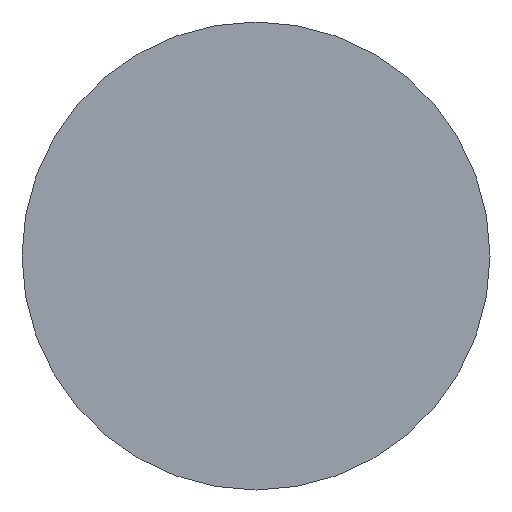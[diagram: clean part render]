
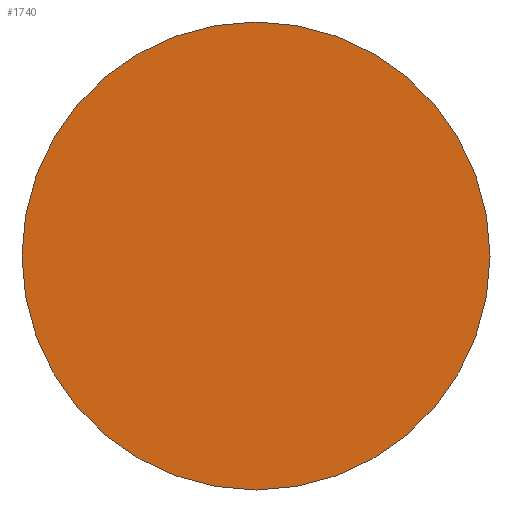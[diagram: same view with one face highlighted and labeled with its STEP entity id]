
A CAD part, front view. The second image highlights one B-rep face of the part: STEP entity #1740.
In plain terms, the highlighted planar face has unit normal (0, -1, 0).
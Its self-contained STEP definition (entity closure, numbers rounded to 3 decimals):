
#429 = DIRECTION ( 'NONE',  ( 0., 0., 1. ) ) ;
#1152 = DIRECTION ( 'NONE',  ( 0., 1., 0. ) ) ;
#1204 = VERTEX_POINT ( 'NONE', #3627 ) ;
#1438 = DIRECTION ( 'NONE',  ( 0., 1., 0. ) ) ;
#1740 = ADVANCED_FACE ( 'NONE', ( #9361 ), #3541, .F. ) ;
#3379 = EDGE_CURVE ( 'NONE', #5372, #1204, #6129, .T. ) ;
#3541 = PLANE ( 'NONE',  #4223 ) ;
#3627 = CARTESIAN_POINT ( 'NONE',  ( 673.365, 866.919, 1278.604 ) ) ;
#3935 = ORIENTED_EDGE ( 'NONE', *, *, #3379, .F. ) ;
#4223 = AXIS2_PLACEMENT_3D ( 'NONE', #6848, #1152, #6900 ) ;
#4679 = DIRECTION ( 'NONE',  ( 0., 0., 1. ) ) ;
#5294 = AXIS2_PLACEMENT_3D ( 'NONE', #10394, #6217, #429 ) ;
#5372 = VERTEX_POINT ( 'NONE', #9587 ) ;
#6129 = CIRCLE ( 'NONE', #10218, 30. ) ;
#6217 = DIRECTION ( 'NONE',  ( 0., 1., 0. ) ) ;
#6332 = CARTESIAN_POINT ( 'NONE',  ( 673.365, 866.919, 1308.604 ) ) ;
#6848 = CARTESIAN_POINT ( 'NONE',  ( 673.365, 866.919, 1308.604 ) ) ;
#6900 = DIRECTION ( 'NONE',  ( 0., 0., 1. ) ) ;
#7174 = CIRCLE ( 'NONE', #5294, 30. ) ;
#8062 = EDGE_CURVE ( 'NONE', #1204, #5372, #7174, .T. ) ;
#8578 = EDGE_LOOP ( 'NONE', ( #8809, #3935 ) ) ;
#8809 = ORIENTED_EDGE ( 'NONE', *, *, #8062, .F. ) ;
#9361 = FACE_OUTER_BOUND ( 'NONE', #8578, .T. ) ;
#9587 = CARTESIAN_POINT ( 'NONE',  ( 673.365, 866.919, 1338.604 ) ) ;
#10218 = AXIS2_PLACEMENT_3D ( 'NONE', #6332, #1438, #4679 ) ;
#10394 = CARTESIAN_POINT ( 'NONE',  ( 673.365, 866.919, 1308.604 ) ) ;
